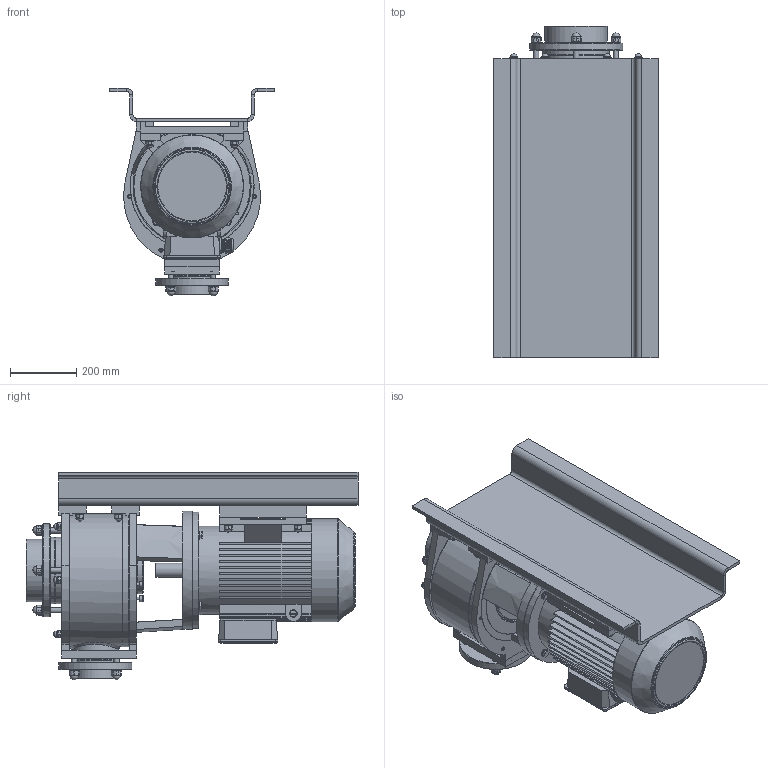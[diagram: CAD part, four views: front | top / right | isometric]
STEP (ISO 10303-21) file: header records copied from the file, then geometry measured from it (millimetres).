
FILE_DESCRIPTION(/* description */ (''),/* implementation_level */ '2;1');
FILE_NAME(/* name */ 'C:\Users\tarpo\OneDrive\Masaüstü\Pompalar Resimler ve Cad Dosyalar\410 BM 160-250-110\PP 410 BM.stp',/* time_stamp */ '2024-07-12T13:26:23+03:00',/* author */ ('tarpo'),/* organization */ (''),/* preprocessor_version */ 'ST-DEVELOPER v18',/* originating_system */ 'Autodesk Inventor 2020',/* authorisation */ '');
FILE_SCHEMA (('CONFIG_CONTROL_DESIGN'));
Products named in the file (1): PP 410 BM_Shrinkwrap_1
Bounding box: 495 x 998.7 x 624.44 mm (x, y, z)
Volume: 71270076.4 mm3; surface area: 5224620.9 mm2
Topology: 81 solids, 81 shells, 2544 faces, 6182 edges, 3926 vertices
Faces by surface type: plane 1314, cylinder 634, cone 273, torus 184, sphere 103, bspline 36
Full cylindrical faces by diameter (mm): 8 x5, 9.84 x4, 11.66 x6, 11.8 x4, 12 x6, 13.12 x4, 13.16 x6, 15.7 x6, 15.8 x4, 16 x8, 18 x5, 19 x6, 20 x2, 23.6 x8, 23.8 x10, 24 x4, 25 x2, 29.8 x8, 30 x10, 35 x10, 35.5 x8, 37 x20, 37.4 x12, 40.5 x2, 42 x1, 90 x1, 106 x1, 110 x2, 111.5 x1, 122 x1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
Entity records: 118972 total; most frequent: CARTESIAN_POINT 56642, DIRECTION 12671, ORIENTED_EDGE 12074, EDGE_CURVE 6037, AXIS2_PLACEMENT_3D 4708, VERTEX_POINT 3926, LINE 3255, VECTOR 3255
